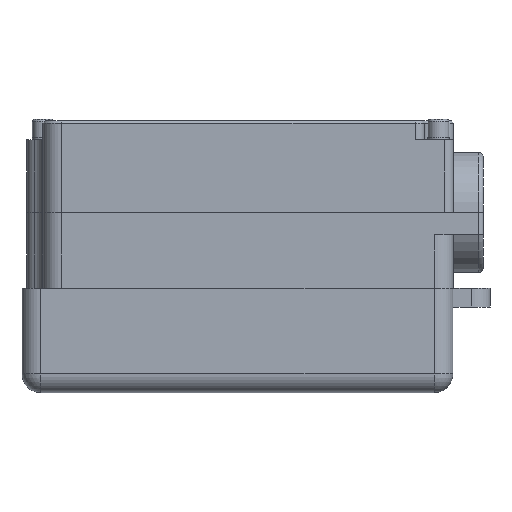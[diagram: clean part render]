
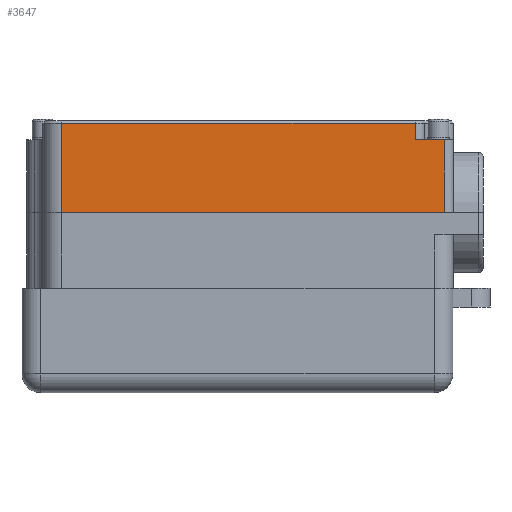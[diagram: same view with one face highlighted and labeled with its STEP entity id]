
A CAD part, left-side view. The second image highlights one B-rep face of the part: STEP entity #3647.
In plain terms, the highlighted planar face has unit normal (-1, 0, 0).
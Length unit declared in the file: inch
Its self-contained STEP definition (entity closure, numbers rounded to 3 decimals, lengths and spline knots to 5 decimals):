
#2746=CARTESIAN_POINT('',(-1.09375,-0.25,2.21875));
#2747=VERTEX_POINT('',#2746);
#2788=CARTESIAN_POINT('',(-1.09375,-5.0045,2.21875));
#2789=VERTEX_POINT('',#2788);
#2805=CARTESIAN_POINT('',(-1.09375,-0.25,2.21875));
#2806=DIRECTION('',(0.0,-1.0,0.0));
#2807=VECTOR('',#2806,4.7545);
#2808=LINE('',#2805,#2807);
#2809=EDGE_CURVE('',#2747,#2789,#2808,.T.);
#3582=CARTESIAN_POINT('',(-1.09375,-5.0045,2.));
#3583=VERTEX_POINT('',#3582);
#3584=CARTESIAN_POINT('',(-1.09375,-5.0045,2.21875));
#3585=DIRECTION('',(0.0,0.0,-1.0));
#3586=VECTOR('',#3585,0.21875);
#3587=LINE('',#3584,#3586);
#3588=EDGE_CURVE('',#2789,#3583,#3587,.T.);
#3608=CARTESIAN_POINT('',(-1.09375,0.,2.25));
#3609=DIRECTION('',(-1.0,0.0,0.0));
#3610=DIRECTION('',(0.0,0.0,1.0));
#3611=AXIS2_PLACEMENT_3D('',#3608,#3609,#3610);
#3612=PLANE('',#3611);
#3613=ORIENTED_EDGE('',*,*,#2809,.F.);
#3614=CARTESIAN_POINT('',(-1.09375,-0.25,1.02));
#3615=VERTEX_POINT('',#3614);
#3616=CARTESIAN_POINT('',(-1.09375,-0.25,1.02));
#3617=DIRECTION('',(0.0,0.0,1.0));
#3618=VECTOR('',#3617,1.19875);
#3619=LINE('',#3616,#3618);
#3620=EDGE_CURVE('',#3615,#2747,#3619,.T.);
#3621=ORIENTED_EDGE('',*,*,#3620,.F.);
#3622=CARTESIAN_POINT('',(-1.09375,-5.393,1.02));
#3623=VERTEX_POINT('',#3622);
#3624=CARTESIAN_POINT('',(-1.09375,-0.25,1.02));
#3625=DIRECTION('',(0.0,-1.0,0.0));
#3626=VECTOR('',#3625,5.143);
#3627=LINE('',#3624,#3626);
#3628=EDGE_CURVE('',#3615,#3623,#3627,.T.);
#3629=ORIENTED_EDGE('',*,*,#3628,.T.);
#3630=CARTESIAN_POINT('',(-1.09375,-5.393,2.));
#3631=VERTEX_POINT('',#3630);
#3632=CARTESIAN_POINT('',(-1.09375,-5.393,2.));
#3633=DIRECTION('',(0.0,0.0,-1.0));
#3634=VECTOR('',#3633,0.98);
#3635=LINE('',#3632,#3634);
#3636=EDGE_CURVE('',#3631,#3623,#3635,.T.);
#3637=ORIENTED_EDGE('',*,*,#3636,.F.);
#3638=CARTESIAN_POINT('',(-1.09375,-5.393,2.));
#3639=DIRECTION('',(0.0,1.0,0.0));
#3640=VECTOR('',#3639,0.3885);
#3641=LINE('',#3638,#3640);
#3642=EDGE_CURVE('',#3631,#3583,#3641,.T.);
#3643=ORIENTED_EDGE('',*,*,#3642,.T.);
#3644=ORIENTED_EDGE('',*,*,#3588,.F.);
#3645=EDGE_LOOP('',(#3613,#3621,#3629,#3637,#3643,#3644));
#3646=FACE_OUTER_BOUND('',#3645,.T.);
#3647=ADVANCED_FACE('',(#3646),#3612,.T.);
